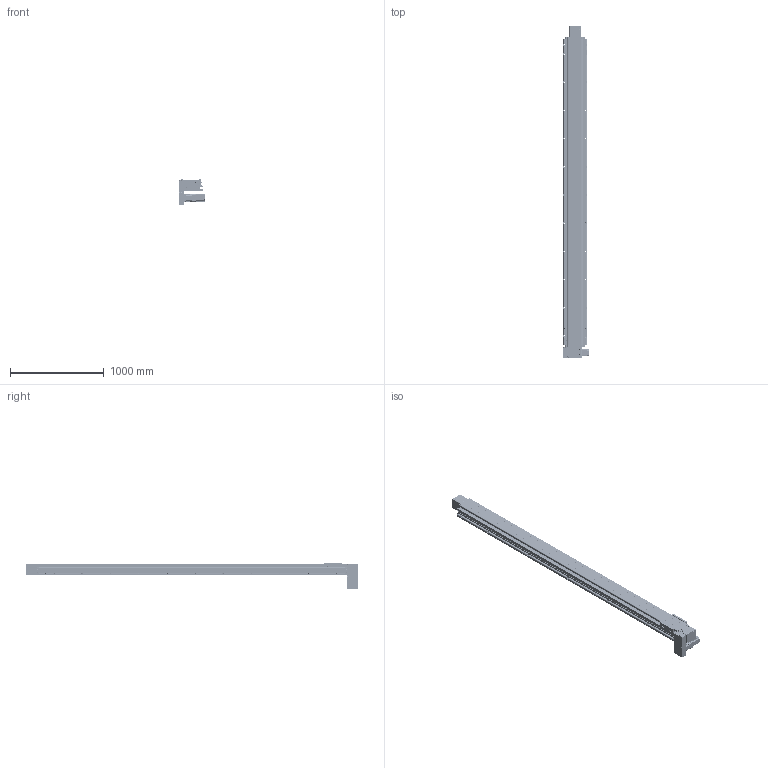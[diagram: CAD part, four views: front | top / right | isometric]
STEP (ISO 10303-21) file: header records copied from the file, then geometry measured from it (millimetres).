
FILE_DESCRIPTION(/* description */ (''),/* implementation_level */ '2;1');
FILE_NAME(/* name */ '\\192.168.0.160\disk1\HAN SHIN Master\B-설계부문\C-표준\B-2024년\BC02-표준도면\+로봇 개선표준도면\홈페이지 표준 도면\홈페이지 최종 작업 폴더\3D\HSB\HSB210\HSB210-DL7G-N-3000-R.stp',/* time_stamp */ '2025-01-06T13:46:32+09:00',/* author */ ('user'),/* organization */ (''),/* preprocessor_version */ 'ST-DEVELOPER v18.1',/* originating_system */ 'Autodesk Inventor 2022',/* authorisation */ '');
FILE_SCHEMA (('AUTOMOTIVE_DESIGN { 1 0 10303 214 3 1 1 }'));
Products named in the file (37): HSB210-DL7G-N-0500-R; HSB210 BASE - 2000ST; HSB210 FORNT HOUSUNG-Connecting Shaft; HSB160 SHAFT-1; HSB160 BEARING OVER; HSB210 FRONT COVER; REAR HOUSUNG-1-R1; HSB160 ARC COVER; HSB160 REAR SHAFT-2; REAR SHAFT--2; 6004ZZ; 6004ZZ Outer ring; 6004ZZ Shield1; 6004ZZ Inner ring; 6004ZZ Ball; 6004ZZ Shield2; UPCOVER; SIDE COVER; PGX90-H-1_3; HR200 SENSOR DOG; hsr_ftht_A-M6F_grease_nipple_joint; NIPPLE CAP(신규); SENSOR BRK(EE-SX674A); EE_SX674A; 6308ZZ; TENSION PLATE; HSB210 END COVER-1; HG90STOPPER - 27L; HSB210 TABLE (TEST); hg-kr73_; HSB210 D MOTOR PLATE ASSY; HSB210 D BELT COVER-R1; HG200-R L-BELT COVER; HG200DACRYLCOVER001; HG200DACRYLCOVER003; HG200DACRYLCOVER002; 750W MOTOR PLATE
Assembly tree (70 placements, depth 3):
  HSB210-DL7G-N-0500-R
    HSB210 BASE - 2000ST
    HSB210 FRONT COVER  x2
    HSB210 FORNT HOUSUNG-Connecting Shaft
    HSB160 SHAFT-1
    HSB160 BEARING OVER
    HSB160 ARC COVER  x4
    REAR HOUSUNG-1-R1
    HSB160 REAR SHAFT-2
    REAR SHAFT--2
    6004ZZ  x2
      6004ZZ Outer ring
      6004ZZ Shield1
      6004ZZ Inner ring
      6004ZZ Ball
      6004ZZ Shield2
    TENSION PLATE  x2
    UPCOVER
    SIDE COVER  x2
    PGX90-H-1_3
    HG90STOPPER - 27L  x4
    HR200 SENSOR DOG
    SENSOR BRK(EE-SX674A)  x3
    EE_SX674A  x3
    NIPPLE CAP(신규)  x4
    hsr_ftht_A-M6F_grease_nipple_joint  x4
    6308ZZ  x2
    HSB210 END COVER-1
    HSB210 TABLE (TEST)
    hg-kr73_
    HSB210 D MOTOR PLATE ASSY
      HSB210 D BELT COVER-R1
      HG200-R L-BELT COVER
      HG200DACRYLCOVER001
      HG200DACRYLCOVER002  x2
      HG200DACRYLCOVER003
      750W MOTOR PLATE
Bounding box: 284.5 x 3534 x 271.5 mm (x, y, z)
Volume: 30834512.7 mm3; surface area: 6627346.5 mm2
Topology: 131 solids, 133 shells, 8133 faces, 22677 edges, 14969 vertices
Faces by surface type: plane 6115, cylinder 1446, cone 404, sphere 84, torus 59, bspline 25
Full cylindrical faces by diameter (mm): 2.013 x2, 2.459 x50, 3 x8, 3.2 x4, 3.242 x58, 3.4 x22, 3.5 x6, 4.134 x2, 4.2 x16, 4.5 x36, 4.917 x36, 5 x56, 5.1 x1, 5.5 x13, 5.6 x4, 5.9 x4, 6 x15, 6.5 x9, 6.6 x8, 6.647 x54, 6.8 x9, 7 x20, 7.6 x4, 8 x13, 8.433 x2, 9 x46, 9.5 x7, 10 x5, 10.106 x24, 11 x20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
Entity records: 179691 total; most frequent: CARTESIAN_POINT 34846, ORIENTED_EDGE 29992, DIRECTION 28840, EDGE_CURVE 14996, LINE 11532, VECTOR 11532, VERTEX_POINT 9994, AXIS2_PLACEMENT_3D 8654
